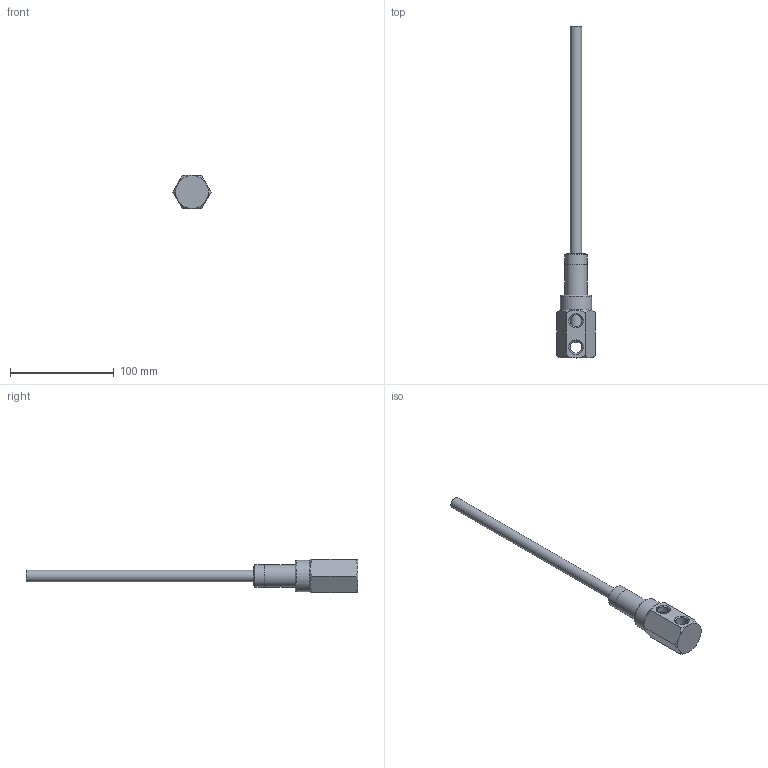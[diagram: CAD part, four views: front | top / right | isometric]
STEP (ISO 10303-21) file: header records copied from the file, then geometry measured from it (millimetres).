
FILE_DESCRIPTION(/* description */ (''),/* implementation_level */ '2;1');
FILE_NAME(/* name */ 'C:/Users/drich/Desktop/121N-4 v1.step',/* time_stamp */ '2020-01-15T19:40:03-06:00',/* author */ (''),/* organization */ (''),/* preprocessor_version */ 'ST-DEVELOPER v18',/* originating_system */ 'Autodesk Translation Framework v8.12.0.6',/* authorisation */ '');
FILE_SCHEMA (('AUTOMOTIVE_DESIGN { 1 0 10303 214 3 1 1 }'));
Length unit declared in the file: inch
Products named in the file (4): 121N-4; 121H-4; SSPN12-2; 437T-12
Assembly tree (3 placements, depth 2):
  121N-4
    121H-4
    SSPN12-2
    437T-12
Bounding box: 36.66 x 319.38 x 31.75 mm (x, y, z)
Volume: 58239.4 mm3; surface area: 35196.8 mm2
Topology: 3 solids, 3 shells, 52 faces, 129 edges, 85 vertices
Faces by surface type: cone 23, plane 15, cylinder 12, torus 2
Full cylindrical faces by diameter (mm): 7.798 x1, 9.881 x1, 10.978 x1, 11.668 x3, 15.799 x1, 18.901 x1, 21.285 x2, 21.336 x1, 30.15 x1
Entity records: 1782 total; most frequent: CARTESIAN_POINT 421, DIRECTION 283, ORIENTED_EDGE 258, EDGE_CURVE 129, AXIS2_PLACEMENT_3D 128, VERTEX_POINT 85, CIRCLE 69, EDGE_LOOP 64
